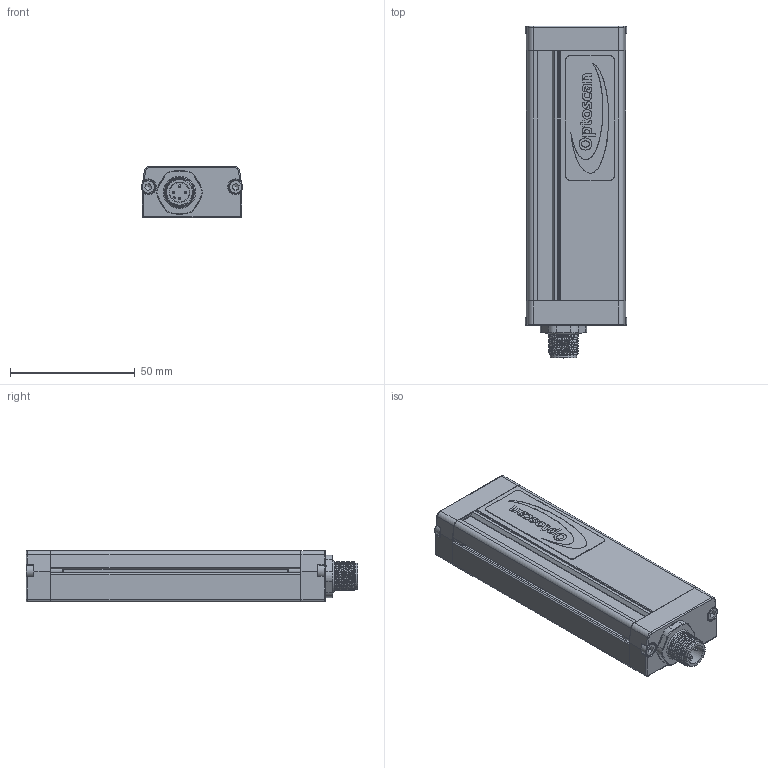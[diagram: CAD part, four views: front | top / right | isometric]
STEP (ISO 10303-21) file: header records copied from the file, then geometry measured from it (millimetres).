
FILE_DESCRIPTION(/* description */ (''),/* implementation_level */ '2;1');
FILE_NAME(/* name */ 'C:\Users\Andrea\SynologyDrive\Optoscan\Libreria Componenti\00 - Barriere\Argo_100_TX.stp',/* time_stamp */ '2022-06-29T15:08:25+02:00',/* author */ ('Andrea'),/* organization */ (''),/* preprocessor_version */ 'ST-DEVELOPER v18.1',/* originating_system */ 'Autodesk Inventor 2022',/* authorisation */ '');
FILE_SCHEMA (('AUTOMOTIVE_DESIGN { 1 0 10303 214 3 1 1 }'));
Length unit declared in the file: millimetre
Products named in the file (1): Argo_100_TX
Bounding box: 40.5 x 132.8 x 20.75 mm (x, y, z)
Volume: 30675.2 mm3; surface area: 36189.6 mm2
Topology: 1 solids, 2 shells, 757 faces, 2033 edges, 1287 vertices
Faces by surface type: plane 338, cylinder 216, bspline 115, torus 74, cone 8, sphere 6
Full cylindrical faces by diameter (mm): 1 x12, 1.2 x4, 2.459 x4, 2.5 x4, 3 x4, 3.5 x4, 5.5 x4, 8 x1, 10 x1, 10.5 x2, 11.75 x8, 12 x1, 12.3 x3, 14.5 x1, 16.7 x1, 17.5 x1
Entity records: 30483 total; most frequent: CARTESIAN_POINT 11236, ORIENTED_EDGE 4050, DIRECTION 3531, EDGE_CURVE 2025, VERTEX_POINT 1287, AXIS2_PLACEMENT_3D 1230, LINE 1071, VECTOR 1071
